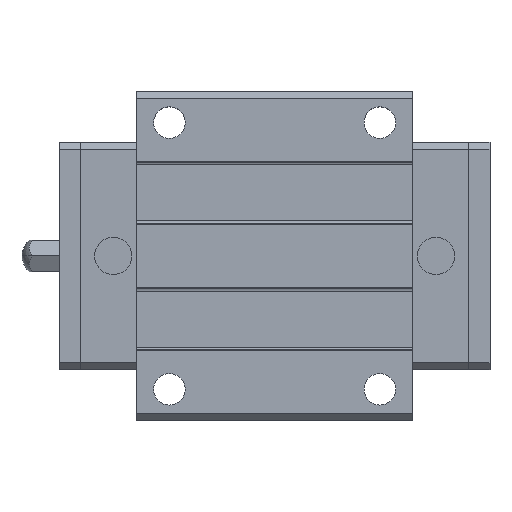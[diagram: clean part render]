
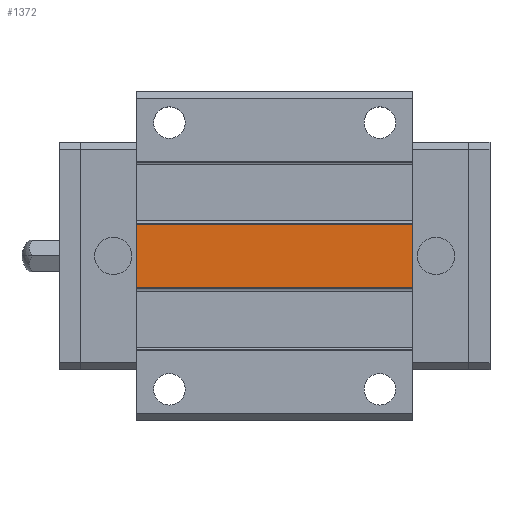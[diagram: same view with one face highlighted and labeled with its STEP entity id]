
A CAD part, top view. The second image highlights one B-rep face of the part: STEP entity #1372.
In plain terms, the highlighted planar face has unit normal (0, 0, 1).
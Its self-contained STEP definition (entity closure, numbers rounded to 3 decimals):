
#1311=CARTESIAN_POINT('POINT93',(50.4,-4.5,19.7));
#1312=VERTEX_POINT('VERTEX93',#1311);
#1319=CARTESIAN_POINT('POINT94',(11.,-4.5,19.7));
#1320=VERTEX_POINT('VERTEX94',#1319);
#1321=CARTESIAN_POINT('POS133',(11.,-4.5,19.7));
#1322=DIRECTION('DIR194',(1.,0.,0.));
#1323=VECTOR('VEC72',#1322,1.);
#1324=LINE('STRAIGHT72',#1321,#1323);
#1325=EDGE_CURVE('EDGE128',#1320,#1312,#1324,.T.);
#1342=CARTESIAN_POINT('POINT95',(50.4,4.5,19.7));
#1343=VERTEX_POINT('VERTEX95',#1342);
#1344=CARTESIAN_POINT('POS136',(50.4,-4.5,19.7));
#1345=DIRECTION('DIR198',(0.,1.,0.));
#1346=VECTOR('VEC74',#1345,1.);
#1347=LINE('STRAIGHT74',#1344,#1346);
#1348=EDGE_CURVE('EDGE130',#1312,#1343,#1347,.T.);
#1349=ORIENTED_EDGE('COEDGE197',*,*,#1348,.T.);
#1350=CARTESIAN_POINT('POINT96',(11.,4.5,19.7));
#1351=VERTEX_POINT('VERTEX96',#1350);
#1352=CARTESIAN_POINT('POS137',(11.,4.5,19.7));
#1353=DIRECTION('DIR199',(1.,0.,0.));
#1354=VECTOR('VEC75',#1353,1.);
#1355=LINE('STRAIGHT75',#1352,#1354);
#1356=EDGE_CURVE('EDGE131',#1351,#1343,#1355,.T.);
#1357=ORIENTED_EDGE('COEDGE198',*,*,#1356,.F.);
#1358=CARTESIAN_POINT('POS138',(11.,-4.5,19.7));
#1359=DIRECTION('DIR200',(0.,1.,0.));
#1360=VECTOR('VEC76',#1359,1.);
#1361=LINE('STRAIGHT76',#1358,#1360);
#1362=EDGE_CURVE('EDGE132',#1320,#1351,#1361,.T.);
#1363=ORIENTED_EDGE('COEDGE199',*,*,#1362,.F.);
#1364=ORIENTED_EDGE('COEDGE200',*,*,#1325,.T.);
#1365=EDGE_LOOP('NONE',(#1349,#1357,#1363,#1364));
#1366=FACE_BOUND('LOOP1',#1365,.T.);
#1367=CARTESIAN_POINT('POS139',(11.,-4.5,19.7));
#1368=DIRECTION('DIR201',(0.,0.,1.));
#1369=DIRECTION('DIR202',(1.,0.,0.));
#1370=AXIS2_PLACEMENT_3D('AXIS63',#1367,#1368,#1369);
#1371=PLANE('PLANE16',#1370);
#1372=ADVANCED_FACE('FACE39',(#1366),#1371,.T.);
